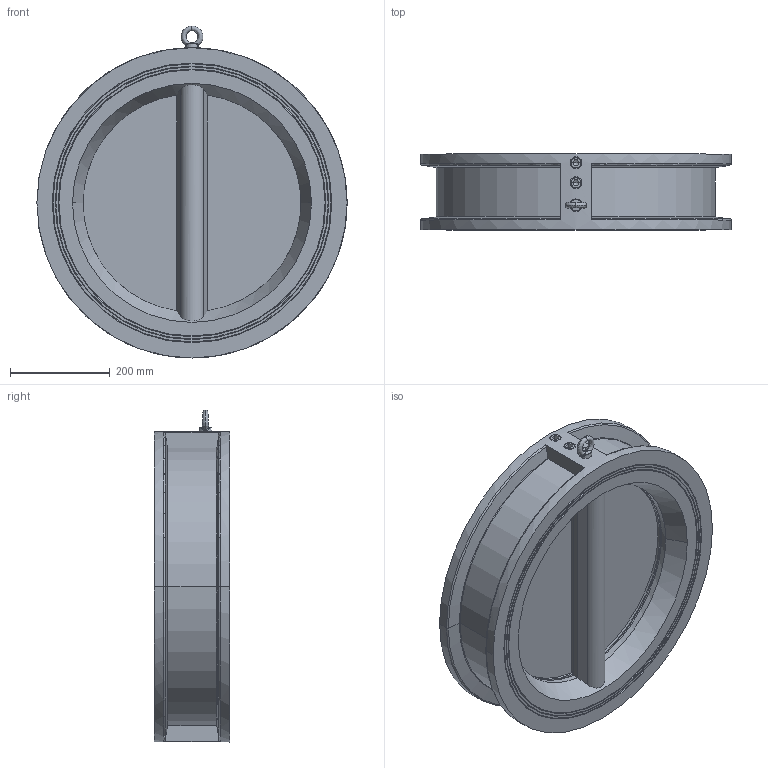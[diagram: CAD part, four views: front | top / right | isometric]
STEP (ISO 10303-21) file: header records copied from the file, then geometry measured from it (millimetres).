
FILE_DESCRIPTION (( 'STEP AP203' ), '1' );
FILE_NAME ('5306 DN500 ×°Åä PN25.STEP', '2026-05-11T01:20:50', ( '' ), ( '' ), 'SwSTEP 2.0', 'SolidWorks 2021', '' );
FILE_SCHEMA (( 'CONFIG_CONTROL_DESIGN' ));
Length unit declared in the file: millimetre
Products named in the file (7): GB╱T 77-2007[内六角平端紧定螺钉M24×25]_M24×25; 5306 DN500 概极; GB╱T 825-1988[吊环螺钉M10]_M10; 5306 DN500 蚾饜 PN25; 5306 DN500 概粣; 500蝶; 5306 DN500 概啣
Assembly tree (11 placements, depth 2):
  5306 DN500 蚾饜 PN25
    5306 DN500 概极
    500蝶
    5306 DN500 概粣  x2
    5306 DN500 概啣  x2
    GB╱T 77-2007[内六角平端紧定螺钉M24×25]_M24×25  x4
    GB╱T 825-1988[吊环螺钉M10]_M10
Bounding box: 623 x 152 x 666.6 mm (x, y, z)
Volume: 17585992.8 mm3; surface area: 1644112 mm2
Topology: 12 solids, 12 shells, 310 faces, 741 edges, 451 vertices
Faces by surface type: plane 117, cylinder 85, cone 74, bspline 18, torus 16
Entity records: 10374 total; most frequent: CARTESIAN_POINT 4801, DIRECTION 998, ORIENTED_EDGE 972, EDGE_CURVE 486, AXIS2_PLACEMENT_3D 405, VERTEX_POINT 302, EDGE_LOOP 234, FACE_OUTER_BOUND 205
